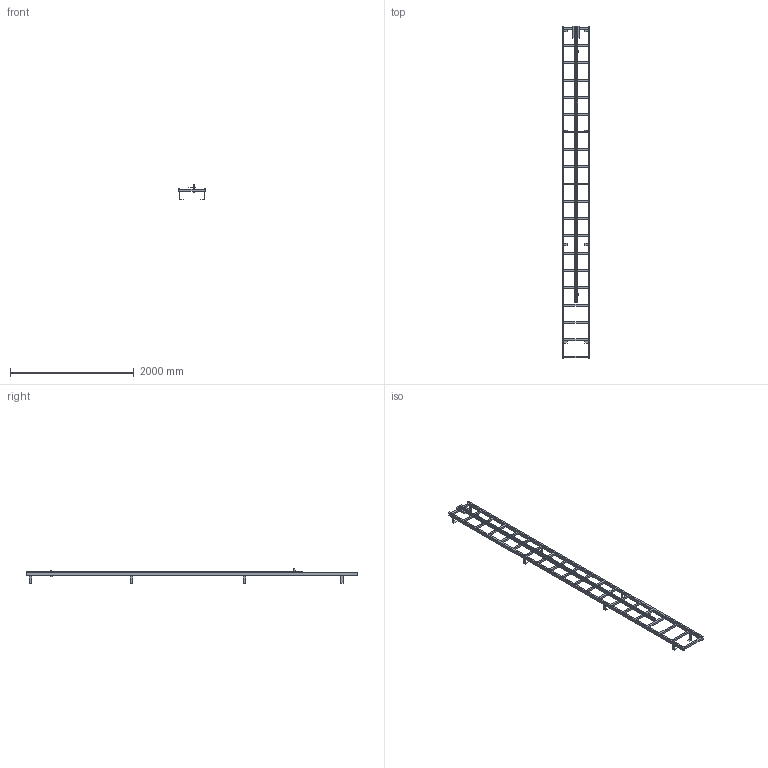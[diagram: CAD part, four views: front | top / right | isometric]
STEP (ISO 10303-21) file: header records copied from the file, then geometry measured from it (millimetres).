
FILE_DESCRIPTION((''),'2;1');
FILE_NAME('52330184','2024-12-05T08:48:31',('wep'),('HUBER SE'),'CREO PARAMETRIC BY PTC INC, 2022162','CREO PARAMETRIC BY PTC INC, 2022162','');
FILE_SCHEMA(('AUTOMOTIVE_DESIGN { 1 0 10303 214 1 1 1 1 }'));
Length unit declared in the file: millimetre
Products named in the file (1): 52330184
Bounding box: 450 x 5370 x 239 mm (x, y, z)
Volume: 23268999.3 mm3; surface area: 4028639.7 mm2
Topology: 2 solids, 2 shells, 332 faces, 972 edges, 638 vertices
Faces by surface type: plane 332
Entity records: 11515 total; most frequent: CARTESIAN_POINT 1944, ORIENTED_EDGE 1944, DIRECTION 1636, VECTOR 972, LINE 972, EDGE_CURVE 972, VERTEX_POINT 638, EDGE_LOOP 432
